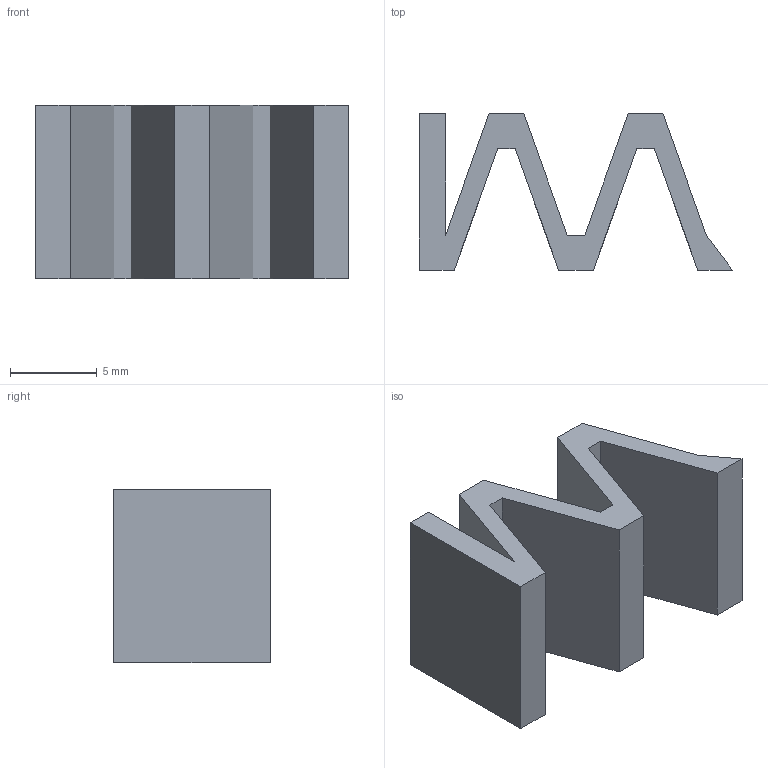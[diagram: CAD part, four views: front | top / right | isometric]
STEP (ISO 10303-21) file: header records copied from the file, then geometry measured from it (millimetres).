
FILE_DESCRIPTION((''),'2;1');
FILE_NAME('C:\MRFR\SHOCK\Hexen\STP\spring.stp','2013-08-15T20:14:36',('mrfr'),(''),'Autodesk Inventor 2013','Autodesk Inventor 2013','');
FILE_SCHEMA(('AUTOMOTIVE_DESIGN { 1 0 10303 214 1 1 1 1 }'));
Length unit declared in the file: millimetre
Products named in the file (1): spring
Bounding box: 18 x 9 x 10 mm (x, y, z)
Volume: 590 mm3; surface area: 1042.6 mm2
Topology: 1 solids, 1 shells, 22 faces, 60 edges, 40 vertices
Faces by surface type: plane 22
Entity records: 710 total; most frequent: CARTESIAN_POINT 123, ORIENTED_EDGE 120, DIRECTION 106, VECTOR 60, LINE 60, EDGE_CURVE 60, VERTEX_POINT 40, AXIS2_PLACEMENT_3D 23
